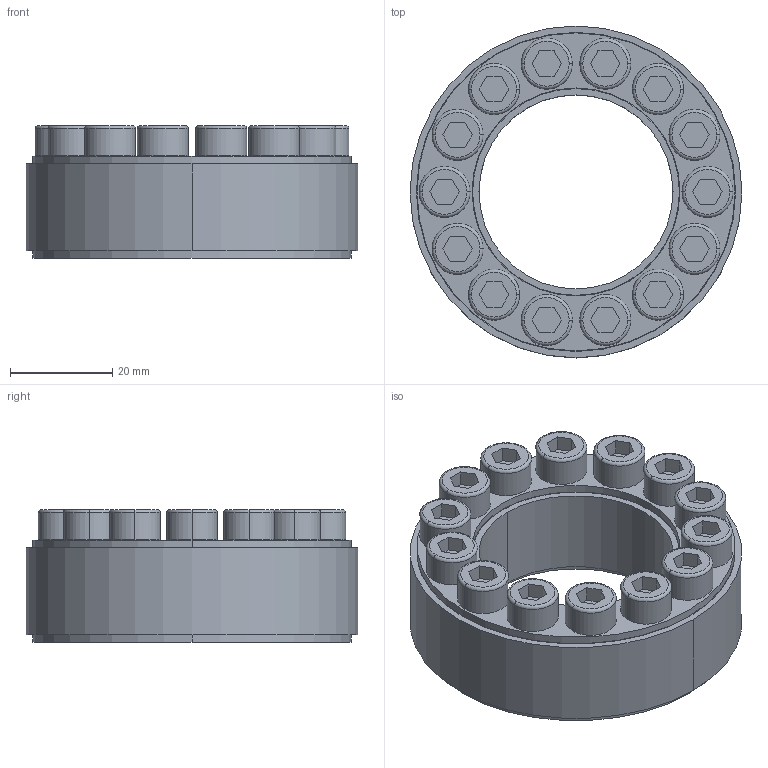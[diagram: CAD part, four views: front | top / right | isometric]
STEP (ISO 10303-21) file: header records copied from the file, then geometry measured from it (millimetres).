
FILE_DESCRIPTION((''),'2;1');
FILE_NAME('398-017-0038','2024-02-16T',('Brieden'),('Brieden'),'PRO/ENGINEER BY PARAMETRIC TECHNOLOGY CORPORATION, 2010160','PRO/ENGINEER BY PARAMETRIC TECHNOLOGY CORPORATION, 2010160','');
FILE_SCHEMA(('AUTOMOTIVE_DESIGN { 1 0 10303 214 1 1 1 1 }'));
Length unit declared in the file: millimetre
Products named in the file (1): 398-017-0038
Bounding box: 65 x 65 x 26 mm (x, y, z)
Volume: 44369.5 mm3; surface area: 33048 mm2
Topology: 4 solids, 4 shells, 348 faces, 780 edges, 496 vertices
Faces by surface type: plane 148, cylinder 128, cone 44, torus 28
Entity records: 12374 total; most frequent: DIRECTION 1834, CARTESIAN_POINT 1626, ORIENTED_EDGE 1560, PRESENTATION_STYLE_ASSIGNMENT 802, STYLED_ITEM 784, CURVE_STYLE 780, EDGE_CURVE 780, AXIS2_PLACEMENT_3D 705
